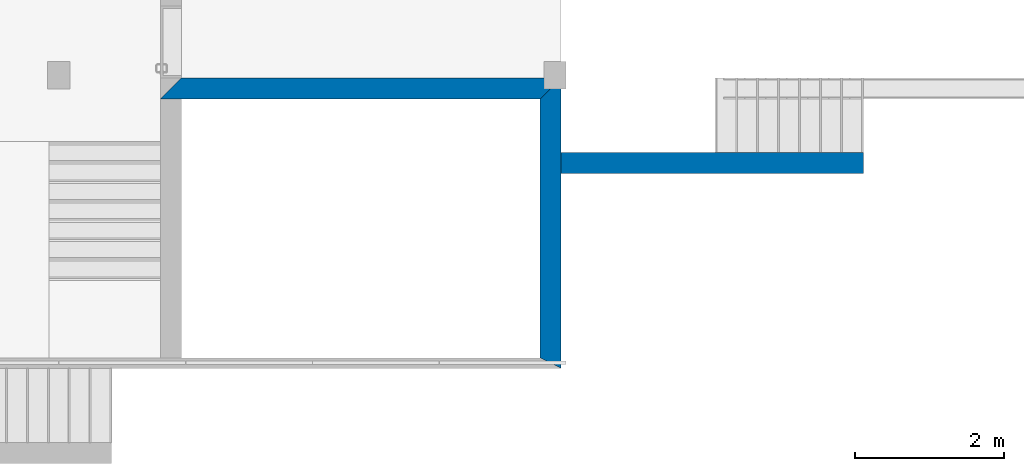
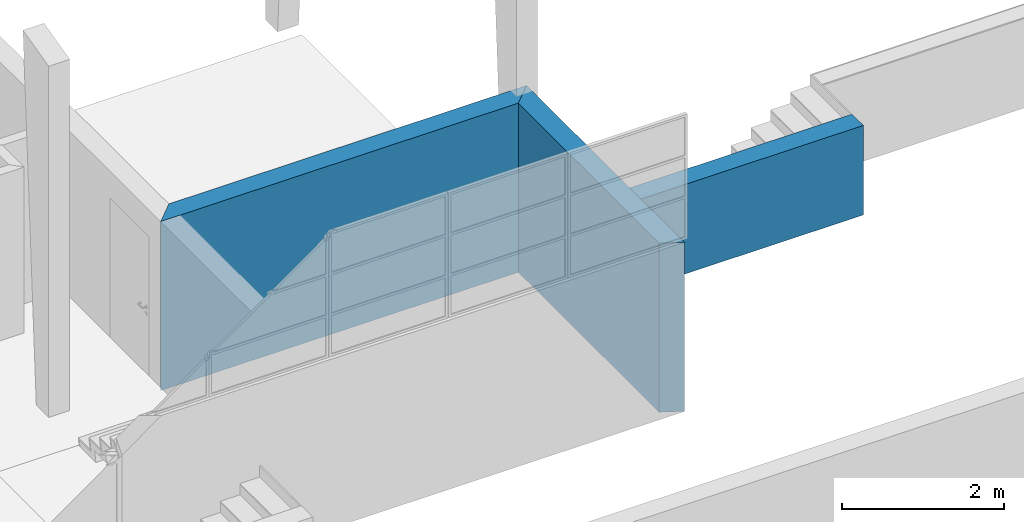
# One storey, part 2 of 16: 3 walls.
"""IFC2X3 building model written with IfcOpenShell, lengths in millimetres."""

from ifc_helpers import new_model, entity, si_unit, converted_unit, derived_unit, money_unit, direction, frame, origin_with_axes, place, context, subcontext, project, spatial, polyline, outline, extrude, material, layer, layer_set, layer_usage, type_object, element, save


model = new_model("IFC2X3")

# Units and contexts
model_context = context("Model", 3, precision=0.01, world=origin_with_axes(), true_north=direction((0.293984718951, 0.955810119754)))
body_context = subcontext(model_context, "Body", "Model", "MODEL_VIEW")
ifc_project = project(units=[si_unit("LENGTHUNIT", "METRE", prefix="MILLI"), si_unit("AREAUNIT", "SQUARE_METRE"), si_unit("VOLUMEUNIT", "CUBIC_METRE"), converted_unit("PLANEANGLEUNIT", "DEGREE", entity("IfcPlaneAngleMeasure", 0.0174532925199), si_unit("PLANEANGLEUNIT", "RADIAN"), dimensions=[0, 0, 0, 0, 0, 0, 0]), si_unit("SOLIDANGLEUNIT", "STERADIAN"), money_unit("USD"), converted_unit("TIMEUNIT", "Year", entity("IfcTimeMeasure", 31556926.0), si_unit("TIMEUNIT", "SECOND"), dimensions=[0, 0, 1, 0, 0, 0, 0]), si_unit("MASSUNIT", "GRAM", prefix="KILO"), si_unit("THERMODYNAMICTEMPERATUREUNIT", "DEGREE_CELSIUS"), si_unit("LUMINOUSINTENSITYUNIT", "LUMEN"), si_unit("ENERGYUNIT", "JOULE", prefix="MEGA"), derived_unit("THERMALCONDUCTANCEUNIT", [(si_unit("POWERUNIT", "WATT"), 1), (si_unit("LENGTHUNIT", "METRE"), -1), (si_unit("THERMODYNAMICTEMPERATUREUNIT", "KELVIN"), -1)]), derived_unit("SPECIFICHEATCAPACITYUNIT", [(si_unit("ENERGYUNIT", "JOULE"), 1), (si_unit("MASSUNIT", "GRAM", prefix="KILO"), -1), (si_unit("THERMODYNAMICTEMPERATUREUNIT", "KELVIN"), -1)]), derived_unit("MASSDENSITYUNIT", [(si_unit("MASSUNIT", "GRAM", prefix="KILO"), 1), (si_unit("VOLUMEUNIT", "CUBIC_METRE"), -1)])], contexts=[model_context])

# Site, building, storey
site_placement = place(None, origin_with_axes())
site = spatial("IfcSite", under=ifc_project, at=site_placement, Name="Local", CompositionType="ELEMENT")
building_placement = place(site_placement, origin_with_axes())
building = spatial("IfcBuilding", under=site, at=building_placement, Name="Construção", CompositionType="ELEMENT")
storey_placement = place(building_placement, origin_with_axes())
storey = spatial("IfcBuildingStorey", under=building, at=storey_placement, Name="Pavimento Térreo", CompositionType="ELEMENT", Elevation=0.0)

# Walls
ifc_material_1 = material(Name="Reboco")
ifc_layer_1 = layer(ifc_material_1, 20.0, ventilated="UNKNOWN")
ifc_material_2 = material(Name="Tijolo - Estrutural")
ifc_layer_2 = layer(ifc_material_2, 240.0, ventilated="UNKNOWN")
ifc_layer_3 = layer(ifc_material_1, 20.0, ventilated="UNKNOWN")
ifc_layer_set = layer_set([ifc_layer_1, ifc_layer_2, ifc_layer_3], Name="Alvenaria Tijolo Maciço com Revestimento 28cm")
ifc_layer_usage_1 = layer_usage(ifc_layer_set, "AXIS2", "NEGATIVE", 0.0)
wall_type = type_object("IfcWallType", Name="Alvenaria Tijolo Maciço com Revestimento 28cm 280", PredefinedType="NOTDEFINED")
wall_1_placement = place(storey_placement, frame((15479.6450727, 7250.63219788, 50.0), z_axis=(0.0, 0.0, 1.0), x_axis=(1.0, 0.0, 0.0)))
element("IfcWallStandardCase", 1, at=wall_1_placement, inside=storey, type_object=wall_type, material=ifc_layer_usage_1, Name="Parede", context=body_context, shape_type="SweptSolid", body=[
    extrude(outline(polyline([(-280.0, -280.0), (4820.0, -280.0), (5100.0, 0.0), (0.0, 0.0), (-280.0, -280.0)])), origin_with_axes(), (0.0, 0.0, 1.0), 2550.0),
])
ifc_layer_usage_2 = layer_usage(ifc_layer_set, "AXIS2", "NEGATIVE", 0.0)
wall_2_placement = place(storey_placement, frame((20579.6450727, 7250.63219788, 50.0), z_axis=(0.0, 0.0, 1.0), x_axis=(0.0, -1.0, 0.0)))
element("IfcWallStandardCase", 2, at=wall_2_placement, inside=storey, type_object=wall_type, material=ifc_layer_usage_2, Name="Parede", context=body_context, shape_type="SweptSolid", body=[
    extrude(outline(polyline([(280.0, -280.0), (3760.0, -280.0), (3900.0, 0.0), (0.0, 0.0), (280.0, -280.0)])), origin_with_axes(), (0.0, 0.0, 1.0), 2550.0),
])
ifc_layer_usage_3 = layer_usage(ifc_layer_set, "AXIS2", "POSITIVE", 0.0)
wall_3_placement = place(storey_placement, frame((24643.7855603, 6250.63219788, 0.0), z_axis=(0.0, 0.0, 1.0), x_axis=(-1.0, 0.0, 0.0)))
element("IfcWallStandardCase", 3, at=wall_3_placement, inside=storey, type_object=wall_type, material=ifc_layer_usage_3, Name="Parede", context=body_context, shape_type="SweptSolid", body=[
    extrude(outline(polyline([(0.0, 0.0), (4064.14048757, 0.0), (4064.14048757, 280.0), (0.0, 280.0), (0.0, 0.0)])), origin_with_axes(), (0.0, 0.0, 1.0), 1350.0),
])

save(model, "model.ifc")
